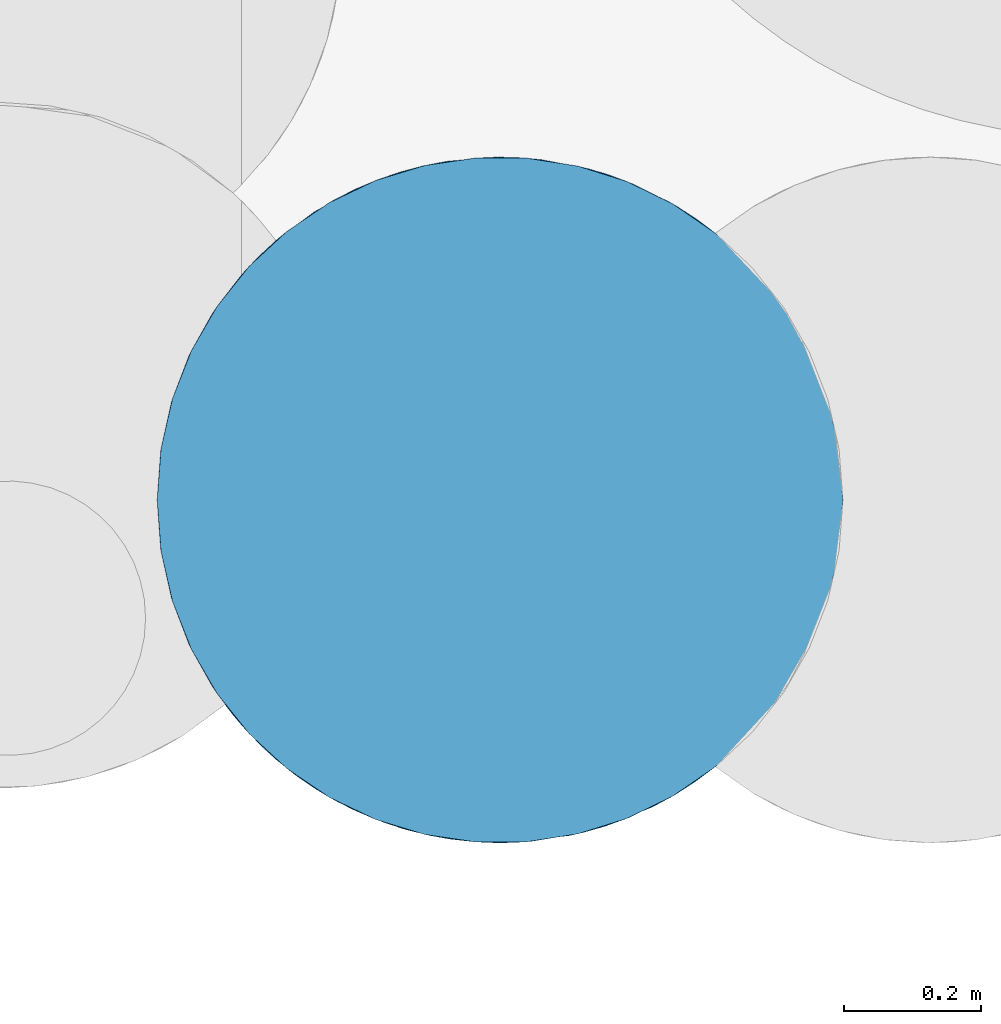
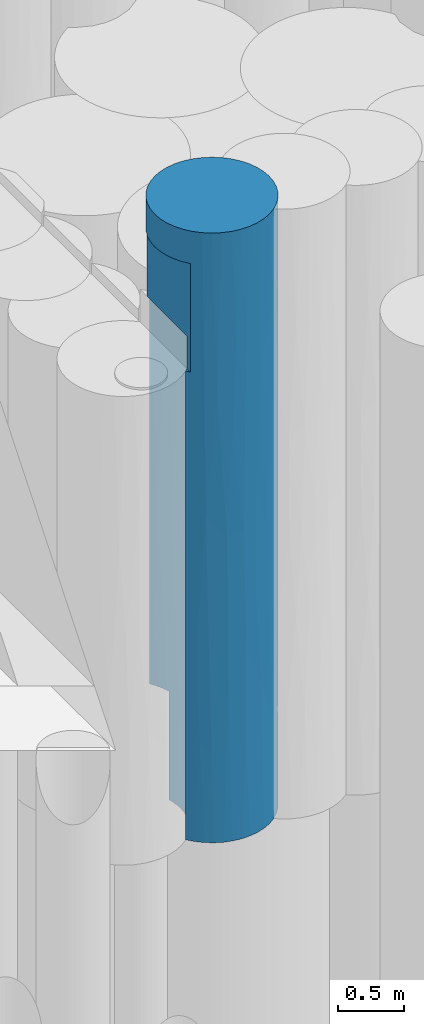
# One storey, part 19 of 104: 1 pile.
"""IFC2X3 building model written with IfcOpenShell, lengths in millimetres."""

from ifc_helpers import new_model, entity, si_unit, converted_unit, derived_unit, direction, frame, origin, place, context, subcontext, project, spatial, faceted_brep, source, transform, mapped, material, element, save


model = new_model("IFC2X3")

# Units and contexts
model_context = context("Model", 3, precision=0.01, world=origin(), true_north=direction((6.12303176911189e-17, 1.0)))
body_context = subcontext(model_context, "Body", "Model", "MODEL_VIEW")
ifc_project = project(units=[si_unit("LENGTHUNIT", "METRE", prefix="MILLI"), si_unit("AREAUNIT", "SQUARE_METRE", prefix="MILLI"), si_unit("VOLUMEUNIT", "CUBIC_METRE"), converted_unit("PLANEANGLEUNIT", "DEGREE", entity("IfcRatioMeasure", 0.0174532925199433), si_unit("PLANEANGLEUNIT", "RADIAN"), dimensions=[0, 0, 0, 0, 0, 0, 0]), si_unit("MASSUNIT", "GRAM", prefix="KILO"), derived_unit("MASSDENSITYUNIT", [(si_unit("MASSUNIT", "GRAM", prefix="KILO"), 1), (si_unit("LENGTHUNIT", "METRE"), -3)]), derived_unit("MOMENTOFINERTIAUNIT", [(si_unit("LENGTHUNIT", "METRE"), 4)]), si_unit("TIMEUNIT", "SECOND"), si_unit("FREQUENCYUNIT", "HERTZ"), si_unit("THERMODYNAMICTEMPERATUREUNIT", "DEGREE_CELSIUS"), derived_unit("THERMALTRANSMITTANCEUNIT", [(si_unit("MASSUNIT", "GRAM", prefix="KILO"), 1), (si_unit("THERMODYNAMICTEMPERATUREUNIT", "KELVIN"), -1), (si_unit("TIMEUNIT", "SECOND"), -3)]), derived_unit("VOLUMETRICFLOWRATEUNIT", [(si_unit("LENGTHUNIT", "METRE"), 3), (si_unit("TIMEUNIT", "SECOND"), -1)]), si_unit("ELECTRICCURRENTUNIT", "AMPERE"), si_unit("ELECTRICVOLTAGEUNIT", "VOLT"), si_unit("POWERUNIT", "WATT"), si_unit("FORCEUNIT", "NEWTON", prefix="KILO"), si_unit("ILLUMINANCEUNIT", "LUX"), si_unit("LUMINOUSFLUXUNIT", "LUMEN"), si_unit("LUMINOUSINTENSITYUNIT", "CANDELA"), derived_unit("USERDEFINED", [(si_unit("MASSUNIT", "GRAM", prefix="KILO"), -1), (si_unit("LENGTHUNIT", "METRE"), -2), (si_unit("TIMEUNIT", "SECOND"), 3), (si_unit("LUMINOUSFLUXUNIT", "LUMEN"), 1)]), derived_unit("LINEARVELOCITYUNIT", [(si_unit("LENGTHUNIT", "METRE"), 1), (si_unit("TIMEUNIT", "SECOND"), -1)]), si_unit("PRESSUREUNIT", "PASCAL"), derived_unit("USERDEFINED", [(si_unit("LENGTHUNIT", "METRE"), -2), (si_unit("MASSUNIT", "GRAM", prefix="KILO"), 1), (si_unit("TIMEUNIT", "SECOND"), -2)]), derived_unit("LINEARFORCEUNIT", [(si_unit("MASSUNIT", "GRAM", prefix="KILO"), 1), (si_unit("LENGTHUNIT", "METRE"), 1), (si_unit("TIMEUNIT", "SECOND"), -2), (si_unit("LENGTHUNIT", "METRE"), -1)]), derived_unit("PLANARFORCEUNIT", [(si_unit("MASSUNIT", "GRAM", prefix="KILO"), 1), (si_unit("LENGTHUNIT", "METRE"), 1), (si_unit("TIMEUNIT", "SECOND"), -2), (si_unit("LENGTHUNIT", "METRE"), -2)])], contexts=[model_context])

# Site, building, storey
site_placement = place(None, origin())
site = spatial("IfcSite", under=ifc_project, at=site_placement, Name="Theater aan de Parade", CompositionType="ELEMENT")
building_placement = place(site_placement, origin())
building = spatial("IfcBuilding", under=site, at=building_placement, Name="Theater aan de Parade", CompositionType="ELEMENT")
storey_placement = place(building_placement, frame((0.0, 0.0, -5520.0)))
storey = spatial("IfcBuildingStorey", under=building, at=storey_placement, Name="-2 kelder", CompositionType="ELEMENT", Elevation=-5520.0)

# Pile
ifc_material = material(Name="00_PBT_MAT_grout")
shared_shape = source(origin(), body_context, "Body", "Brep", [
    faceted_brep([(978.708434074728, 650.437389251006, 0.0), (995.840310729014, 576.537507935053, 0.0), (1001.59527223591, 500.894650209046, 0.0), (996.08100526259, 426.841562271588, 0.0), (979.661108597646, 354.426032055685, 0.0), (952.698049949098, 285.241493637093, 0.0), (915.787290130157, 220.814354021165, 0.0), (869.743307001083, 162.564893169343, 0.0), (815.568196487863, 111.772401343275, 0.0), (755.467812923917, 70.1409699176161, 0.0), (689.924774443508, 37.718659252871, 0.0), (620.35426028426, 15.2030785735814, 0.0), (548.243828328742, 3.0754940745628, 0.0), (475.135280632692, 1.5952722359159, 0.0), (402.591782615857, 10.794345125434, 0.0), (332.164525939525, 30.4765147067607, 0.0), (265.359642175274, 60.2216114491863, 0.0), (203.606017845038, 99.3944580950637, 0.0), (148.226557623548, 147.156680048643, 0.0), (100.407403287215, 202.485042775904, 0.0), (151.023604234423, 252.949755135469, 0.0), (193.927152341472, 310.115938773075, 0.0), (228.241324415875, 372.815417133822, 0.0), (253.264918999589, 439.766942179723, 0.0), (268.486585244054, 509.602376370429, 0.0), (273.595272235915, 580.894650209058, 0.0), (271.357481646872, 628.146982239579, 0.0), (264.67226371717, 674.933942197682, 0.0), (253.595272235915, 720.894650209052, 0.0), (950.594158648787, 720.894650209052, 0.0), (893.84986168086, 810.953252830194, 4489.59252354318), (892.347179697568, 812.844881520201, 3308.95384205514), (821.950483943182, 884.785960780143, 3322.62277001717), (785.555874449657, 912.436113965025, 4148.44069485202), (950.594158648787, 720.894650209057, 1000.0), (993.033260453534, 593.028811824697, 4326.99552965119), (992.881172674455, 593.836374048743, 3434.23110734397), (967.465989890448, 682.455864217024, 4072.90255816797), (933.425829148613, 752.931096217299, 2226.96646674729), (986.449891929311, 623.025718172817, 2185.76883376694), (815.595272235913, 890.001319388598, 1000.0), (787.782727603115, 910.89067505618, 2484.59955568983), (866.247255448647, 842.98956560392, 2049.22501234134), (913.975561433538, 783.635692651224, 1000.0), (651.268450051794, 977.966908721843, 4484.36668629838), (541.074417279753, 999.333610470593, 5620.0), (615.106116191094, 987.839501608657, 5620.0), (915.788602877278, 780.973005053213, 5620.0), (869.745683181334, 839.221821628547, 5620.0), (1001.59527223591, 500.89465020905, 5620.0), (1001.59527223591, 500.89465020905, 4058.46227525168), (664.148887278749, 973.733229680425, 2129.92649779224), (696.62109128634, 961.291142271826, 1000.0), (630.890412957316, 983.888197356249, 1000.0), (466.156350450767, 999.637151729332, 5620.0), (503.621076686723, 1000.89054630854, 4245.73258496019), (355.792405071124, 979.163950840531, 4462.4423855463), (230.431999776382, 920.978546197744, 1000.0), (174.783141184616, 879.304257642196, 1000.0), (174.783141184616, 879.304257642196, 2561.53528578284), (424.007457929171, 994.838099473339, 1000.0), (423.503020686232, 994.758599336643, 2383.00887877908), (493.254859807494, 1000.82508288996, 1000.0), (758.585149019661, 929.7958080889, 1000.0), (562.662539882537, 997.151427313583, 1000.0), (528.022610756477, 1000.1957575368, 2482.7025883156), (753.919841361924, 932.55691612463, 5620.0), (356.257420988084, 979.305466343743, 1000.0), (291.313194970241, 954.526051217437, 1000.0), (323.354176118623, 968.045708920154, 2216.14209008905), (664.14888679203, 973.73322984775, 3304.18102269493), (989.883234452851, 608.481201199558, 1093.58093877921), (1001.59527223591, 500.89465020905, 2810.0), (1001.59527223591, 500.89465020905, 1561.53772474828), (747.225069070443, 936.401255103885, 3204.51966427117), (979.661275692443, 647.362722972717, 5620.0), (952.698627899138, 716.546597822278, 5620.0), (996.08099053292, 574.94783650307, 5620.0), (868.654125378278, 840.40576686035, 1000.0), (815.595272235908, 890.001319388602, 5620.0), (392.033743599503, 988.743265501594, 5620.0), (256.657934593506, 936.791083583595, 4105.38442732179), (174.783141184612, 879.304257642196, 3590.7676428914), (174.783141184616, 879.304257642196, 3839.2311885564), (174.783141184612, 879.304257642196, 4620.0), (686.58951237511, 965.412821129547, 5620.0), (287.915726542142, 952.935634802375, 3155.2500948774), (560.841253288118, 997.372155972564, 3417.00919097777), (389.862202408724, 988.250496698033, 3298.99080208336), (963.190594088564, 693.065820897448, 3050.55238436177), (252.775746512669, 934.586757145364, 5620.0), (148.847843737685, 855.252169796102, 4620.0), (124.73714215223, 829.49463467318, 4620.0), (124.737142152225, 829.494634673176, 5320.0), (1001.59527223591, 500.894650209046, 3123.07541183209), (47.1663242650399, 709.447596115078, 5320.0), (22.0237954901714, 642.355594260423, 5320.0), (23.9258448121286, 648.650929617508, 5620.0), (81.6400670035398, 772.257185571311, 5320.0), (51.3680172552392, 718.36974964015, 5620.0), (88.919295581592, 783.203945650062, 5620.0), (190.766798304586, 892.539463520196, 5620.0), (320.37059453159, 966.896384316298, 5620.0), (135.736056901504, 841.698163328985, 5620.0), (1.5952722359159, 500.89465020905, 5620.0), (6.72875570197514, 572.35884273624, 5320.0), (1.5952722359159, 500.89465020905, 5320.0), (7.20970820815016, 575.613550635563, 5620.0), (786.292541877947, 89.8624560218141, 955.470319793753), (759.718424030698, 72.6745683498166, 1898.74051298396), (655.55167216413, 25.1873589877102, 1362.37716244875), (830.488202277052, 124.292153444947, 2887.35059805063), (916.037210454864, 221.18430030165, 1956.31043172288), (935.441188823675, 252.34340667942, 3250.83833697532), (249.382623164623, 69.166981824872, 829.901539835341), (996.080990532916, 426.841463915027, 5620.0), (993.95546516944, 413.823182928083, 4488.79568359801), (991.764741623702, 402.234165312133, 2469.44853145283), (990.637745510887, 396.791531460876, 3590.76885290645), (751.324007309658, 67.725446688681, 3848.99860951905), (785.416513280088, 89.2570630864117, 4728.94247474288), (651.268450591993, 23.8223918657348, 4242.52194334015), (22.0237954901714, 359.433706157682, 5320.0), (47.1663242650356, 292.341704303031, 5320.0), (23.9258448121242, 353.138370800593, 5620.0), (6.72875570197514, 429.43045768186, 5320.0), (7.20970820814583, 426.175749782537, 5620.0), (233.765690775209, 78.6775078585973, 1659.85121586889), (175.041894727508, 122.26172554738, 932.122444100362), (967.465991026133, 319.333439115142, 4361.60420404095), (367.017853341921, 19.3461912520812, 1340.87635452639), (511.716650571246, 0.997103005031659, 849.167152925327), (511.716650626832, 0.99710300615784, 1762.48600312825), (157.606598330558, 138.028569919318, 1806.42946899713), (212.772401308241, 92.7508652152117, 3018.54651857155), (112.279514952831, 187.153927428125, 4320.0), (100.40740328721, 202.485042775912, 2758.45730344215), (124.737142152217, 172.294665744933, 4320.0), (100.40740328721, 202.485042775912, 1379.22865172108), (252.775746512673, 67.2025432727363, 5620.0), (285.967161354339, 49.7799000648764, 4154.45554698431), (320.370594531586, 34.8929161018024, 5620.0), (967.465644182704, 319.332549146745, 1676.81252868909), (100.40740328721, 202.485042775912, 4320.0), (81.6400670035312, 229.532114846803, 5320.0), (51.3680172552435, 283.419550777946, 5620.0), (615.106116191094, 13.9497988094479, 5620.0), (686.589512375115, 36.3764792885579, 5620.0), (88.919295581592, 218.585354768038, 5620.0), (603.973956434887, 11.4882699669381, 2173.9423801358), (491.179580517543, 1.00314861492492, 2826.20873540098), (124.737142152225, 172.294665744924, 5320.0), (355.792405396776, 22.6253494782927, 2815.90276750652), (190.766798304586, 109.249836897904, 5620.0), (135.736056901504, 160.091137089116, 5620.0), (201.981491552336, 100.605276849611, 4614.51440993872), (893.848047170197, 190.833752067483, 956.493533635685), (399.112262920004, 11.5101052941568, 3711.38495279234), (503.62107715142, 0.898754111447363, 3900.47638996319), (428.890720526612, 6.20884269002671, 4656.69483412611), (843.611517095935, 136.168878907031, 1708.30677895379), (989.217196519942, 390.328566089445, 942.705568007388), (523.415797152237, 1.37101243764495, 4758.29698323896), (843.614182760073, 136.171378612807, 4066.38978466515), (603.531019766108, 11.3958214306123, 3122.25865294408), (723.289799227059, 52.7300189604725, 2809.03739843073), (960.593671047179, 302.600752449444, 837.486930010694), (979.661275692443, 354.426577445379, 5620.0), (952.698627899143, 285.242702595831, 5620.0), (392.033743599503, 13.0460349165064, 5620.0), (912.940401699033, 216.649712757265, 4536.14117082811), (869.745683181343, 162.567478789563, 5620.0), (466.156350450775, 2.15214868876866, 5620.0), (815.595272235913, 111.787981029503, 5620.0), (753.919841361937, 69.2323842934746, 5620.0), (541.074417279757, 2.45568994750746, 5620.0), (915.788602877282, 220.816295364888, 5620.0), (100.40740328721, 202.485042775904, 1561.53770635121), (273.595272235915, 580.894650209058, 3058.4622699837), (273.595272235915, 580.894650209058, 4620.0), (269.50715670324, 644.702195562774, 4620.0), (248.24903883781, 738.069081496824, 3087.50120814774), (237.236435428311, 768.076037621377, 4620.0), (253.595272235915, 720.894650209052, 1000.0), (273.59527223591, 580.894650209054, 1155.0), (244.456194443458, 749.090940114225, 2028.72611439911), (257.321838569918, 707.419782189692, 4620.0), (233.662412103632, 776.696148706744, 1000.0), (273.595272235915, 580.894650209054, 2310.0), (207.268136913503, 829.747712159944, 1000.0), (209.577697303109, 825.678892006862, 4620.0), (273.595272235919, 580.894650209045, 1496.92458808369), (112.758258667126, 213.514100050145, 4320.0), (173.498175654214, 280.765231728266, 1055.64897202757), (170.001815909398, 276.162223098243, 2160.0), (221.128647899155, 357.92855936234, 2823.90206753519), (241.950994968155, 405.843466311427, 1433.66570229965), (256.252953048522, 450.351311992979, 4620.0), (269.239436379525, 515.039790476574, 4620.0), (246.588565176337, 418.791766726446, 3645.11453275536), (124.737142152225, 224.946076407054, 4320.0), (124.737142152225, 224.946076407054, 4620.0), (168.510274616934, 274.231739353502, 4620.0), (187.879712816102, 300.951080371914, 3645.12175298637), (234.863051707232, 387.938604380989, 4620.0), (261.090401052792, 469.770848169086, 2650.49598003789), (265.995431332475, 494.049481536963, 956.337902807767), (205.444365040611, 328.889965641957, 4620.0), (266.029536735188, 494.243076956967, 1818.95046675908)], [[[0, 1, 2, 3, 4, 5, 6, 7, 8, 9, 10, 11, 12, 13, 14, 15, 16, 17, 18, 19, 20, 21, 22, 23, 24, 25, 26, 27, 28, 29]], [[30, 31, 32]], [[30, 32, 33]], [[34, 0, 29]], [[35, 36, 37]], [[38, 39, 34]], [[40, 41, 42]], [[42, 38, 43]], [[44, 45, 46]], [[47, 30, 48]], [[49, 50, 35]], [[51, 52, 53]], [[54, 55, 56]], [[57, 58, 59]], [[60, 61, 62]], [[63, 51, 41]], [[64, 65, 51]], [[66, 33, 44]], [[63, 41, 40]], [[63, 52, 51]], [[67, 68, 69]], [[65, 70, 51]], [[61, 60, 67]], [[30, 37, 31]], [[39, 71, 34]], [[39, 72, 73]], [[74, 33, 32]], [[0, 34, 71]], [[36, 35, 50]], [[75, 37, 76]], [[35, 75, 77]], [[78, 42, 43]], [[57, 69, 68]], [[76, 37, 30]], [[79, 30, 33]], [[56, 80, 54]], [[51, 53, 64]], [[70, 44, 33]], [[66, 79, 33]], [[81, 82, 83, 84]], [[39, 73, 71]], [[85, 44, 46]], [[86, 82, 81]], [[55, 45, 44]], [[44, 70, 87]], [[56, 55, 88]], [[44, 85, 66]], [[34, 43, 38]], [[37, 89, 31]], [[30, 47, 76]], [[81, 56, 86]], [[67, 69, 61]], [[32, 31, 42]], [[69, 57, 59]], [[81, 90, 56]], [[87, 88, 55]], [[65, 87, 70]], [[91, 92, 93]], [[30, 79, 48]], [[69, 88, 61]], [[91, 93, 84]], [[31, 38, 42]], [[36, 50, 94, 72]], [[95, 96, 97]], [[98, 95, 99]], [[2, 1, 71]], [[93, 98, 100]], [[88, 69, 86]], [[84, 93, 101]], [[102, 80, 56]], [[56, 90, 102]], [[86, 56, 88]], [[90, 81, 84]], [[84, 101, 90]], [[101, 93, 103]], [[39, 89, 36]], [[89, 39, 38]], [[45, 55, 54]], [[72, 39, 36]], [[100, 98, 99]], [[100, 103, 93]], [[51, 70, 74]], [[104, 105, 106]], [[0, 71, 1]], [[95, 97, 99]], [[49, 35, 77]], [[96, 107, 97]], [[105, 104, 107]], [[75, 35, 37]], [[69, 59, 86]], [[2, 71, 73]], [[107, 96, 105]], [[31, 89, 38]], [[82, 86, 59]], [[64, 62, 65]], [[74, 32, 41]], [[36, 89, 37]], [[51, 74, 41]], [[33, 74, 70]], [[88, 87, 65]], [[44, 87, 55]], [[88, 65, 61]], [[61, 65, 62]], [[40, 42, 78]], [[42, 41, 32]], [[108, 109, 110]], [[111, 112, 113]], [[16, 114, 17]], [[49, 115, 116]], [[117, 94, 118]], [[119, 120, 121]], [[122, 123, 124]], [[125, 122, 126]], [[7, 108, 8]], [[106, 125, 104]], [[114, 127, 128]], [[129, 113, 118]], [[130, 131, 132]], [[133, 127, 134]], [[135, 136, 137]], [[114, 15, 130]], [[15, 14, 130]], [[133, 138, 128]], [[139, 140, 141]], [[117, 113, 142]], [[142, 113, 112]], [[135, 143, 136]], [[125, 126, 104]], [[144, 145, 123]], [[122, 124, 126]], [[146, 121, 147]], [[145, 124, 123]], [[145, 144, 148]], [[149, 150, 132]], [[17, 128, 18]], [[144, 151, 148]], [[134, 152, 140]], [[151, 153, 154]], [[137, 155, 151]], [[156, 7, 6]], [[151, 154, 148]], [[151, 155, 153]], [[157, 158, 159]], [[160, 108, 156]], [[2, 73, 161]], [[159, 158, 162]], [[111, 113, 163]], [[127, 114, 130]], [[121, 164, 165]], [[130, 14, 131]], [[131, 11, 110]], [[127, 130, 152]], [[156, 166, 112]], [[166, 6, 5]], [[9, 8, 108]], [[10, 110, 11]], [[133, 128, 127]], [[117, 161, 73]], [[110, 132, 131]], [[108, 7, 156]], [[2, 161, 3]], [[166, 161, 142]], [[129, 118, 116]], [[50, 118, 94]], [[167, 168, 129]], [[161, 4, 3]], [[141, 159, 169]], [[10, 108, 110]], [[6, 166, 156]], [[170, 171, 163]], [[109, 108, 160]], [[157, 140, 152]], [[116, 167, 129]], [[12, 131, 13]], [[159, 172, 169]], [[120, 173, 174]], [[159, 141, 140]], [[159, 162, 172]], [[172, 162, 175]], [[134, 137, 136]], [[155, 139, 153]], [[162, 146, 175]], [[111, 165, 109]], [[147, 121, 120]], [[113, 129, 170]], [[149, 165, 164]], [[118, 50, 116]], [[152, 130, 132]], [[161, 166, 4]], [[18, 128, 19]], [[171, 173, 120]], [[117, 73, 72, 94]], [[164, 121, 158]], [[168, 170, 129]], [[131, 14, 13]], [[10, 9, 108]], [[176, 170, 168]], [[119, 121, 165]], [[19, 128, 138]], [[131, 12, 11]], [[156, 112, 160]], [[113, 117, 118]], [[117, 142, 161]], [[111, 109, 160]], [[109, 165, 149]], [[140, 157, 159]], [[150, 157, 152]], [[127, 152, 134]], [[133, 136, 177, 138]], [[134, 140, 155]], [[136, 133, 134]], [[158, 121, 162]], [[146, 162, 121]], [[166, 142, 112]], [[4, 166, 5]], [[17, 114, 128]], [[114, 16, 15]], [[150, 164, 158]], [[110, 149, 132]], [[157, 150, 158]], [[152, 132, 150]], [[49, 116, 50]], [[167, 116, 115]], [[111, 160, 112]], [[119, 111, 163]], [[134, 155, 137]], [[139, 155, 140]], [[111, 119, 165]], [[120, 119, 163]], [[120, 163, 171]], [[120, 174, 147]], [[171, 170, 176]], [[113, 170, 163]], [[149, 110, 109]], [[150, 149, 164]], [[79, 66, 85, 46, 45, 54, 80, 102, 90, 101, 103, 100, 99, 97, 107, 104, 126, 124, 145, 148, 154, 153, 139, 141, 169, 172, 175, 146, 147, 174, 173, 171, 176, 168, 167, 115, 49, 77, 75, 76, 47, 48]], [[178, 179, 180]], [[83, 181, 182]], [[183, 184, 185]], [[27, 26, 183]], [[180, 186, 181]], [[180, 181, 178]], [[185, 187, 183]], [[188, 178, 181]], [[26, 184, 183]], [[59, 58, 189]], [[183, 28, 27]], [[190, 84, 83]], [[181, 185, 188]], [[182, 190, 83]], [[185, 184, 191, 188]], [[185, 181, 59]], [[189, 185, 59]], [[186, 182, 181]], [[189, 187, 185]], [[181, 83, 82, 59]], [[184, 26, 25]], [[136, 143, 192]], [[22, 21, 193]], [[136, 194, 177]], [[193, 19, 138, 177]], [[194, 195, 196]], [[197, 198, 199]], [[22, 193, 196]], [[193, 20, 19]], [[196, 23, 22]], [[200, 201, 202]], [[194, 136, 203]], [[200, 136, 192]], [[194, 203, 195]], [[199, 203, 204]], [[193, 194, 196]], [[205, 196, 195]], [[206, 191, 184, 25]], [[203, 200, 202]], [[200, 203, 136]], [[203, 207, 204]], [[193, 21, 20]], [[195, 203, 199]], [[179, 178, 198]], [[197, 199, 204]], [[195, 199, 205]], [[205, 178, 208]], [[207, 203, 202]], [[24, 23, 206]], [[178, 199, 198]], [[206, 25, 24]], [[208, 206, 196]], [[178, 205, 199]], [[194, 193, 177]], [[191, 206, 208]], [[196, 206, 23]], [[208, 178, 188, 191]], [[205, 208, 196]], [[92, 91, 84, 190, 182, 186, 180, 179, 198, 197, 204, 207, 202, 201]], [[192, 143, 135, 137, 200]], [[95, 98, 93, 151, 144, 123, 122, 125, 106, 105, 96]], [[200, 137, 151, 93, 92, 201]], [[57, 68, 67, 60, 62, 64, 53, 52, 63, 40, 78, 43, 34, 183, 187, 189, 58]], [[34, 29, 28, 183]]]),
])
pile_placement = place(storey_placement, frame((35080.2628578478, 22161.4727531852, -3840.0)))
element("IfcPile", 1, at=pile_placement, inside=storey, material=ifc_material, Name="17_PBT_SFO_grondkering_rond:Ø1000 (grondkering)", ObjectType="17_PBT_SFO_grondkering_rond:Ø1000 (grondkering)", PredefinedType="NOTDEFINED", context=body_context, shape_type="MappedRepresentation", body=[
    mapped(shared_shape, transform((0.0, 0.0, 0.0), scale=1.0)),
])

save(model, "model.ifc")
